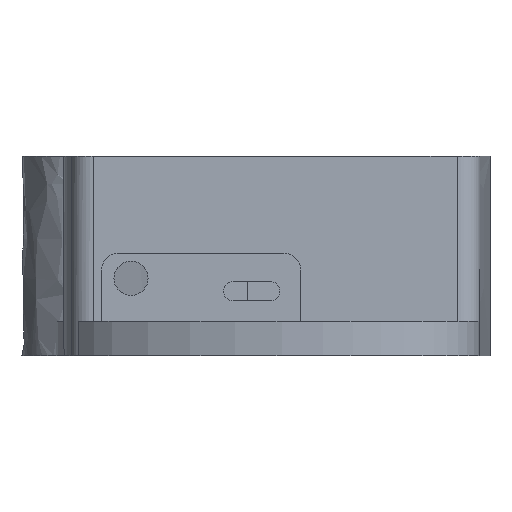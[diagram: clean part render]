
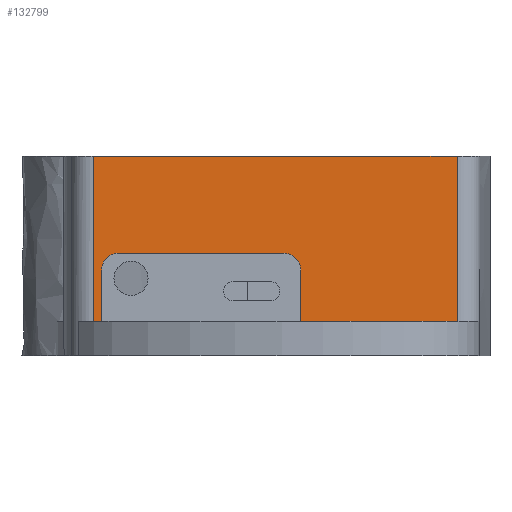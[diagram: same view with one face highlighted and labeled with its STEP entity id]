
A CAD part, front view. The second image highlights one B-rep face of the part: STEP entity #132799.
In plain terms, the highlighted planar face has unit normal (0, -1, 0).
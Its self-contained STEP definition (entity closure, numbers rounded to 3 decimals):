
#1642 = VERTEX_POINT ( 'NONE', #85141 ) ;
#2702 = CARTESIAN_POINT ( 'NONE',  ( -32.026, -46.964, 35. ) ) ;
#7456 = DIRECTION ( 'NONE',  ( 0., 0., 1. ) ) ;
#7679 = PLANE ( 'NONE',  #141575 ) ;
#9794 = ORIENTED_EDGE ( 'NONE', *, *, #21902, .T. ) ;
#11731 = VECTOR ( 'NONE', #16621, 1000. ) ;
#12630 = EDGE_CURVE ( 'NONE', #136118, #119531, #80817, .T. ) ;
#15095 = VERTEX_POINT ( 'NONE', #58963 ) ;
#16621 = DIRECTION ( 'NONE',  ( 1., 0., 0. ) ) ;
#20872 = ORIENTED_EDGE ( 'NONE', *, *, #85864, .T. ) ;
#20961 = VECTOR ( 'NONE', #112625, 1000. ) ;
#21902 = EDGE_CURVE ( 'NONE', #15095, #125558, #37615, .T. ) ;
#24611 = LINE ( 'NONE', #111409, #104779 ) ;
#27295 = EDGE_CURVE ( 'NONE', #104570, #125558, #131603, .T. ) ;
#28160 = VECTOR ( 'NONE', #57075, 1000. ) ;
#30438 = DIRECTION ( 'NONE',  ( 0., 0., -1. ) ) ;
#32557 = CARTESIAN_POINT ( 'NONE',  ( -30.597, -46.964, 8. ) ) ;
#32934 = EDGE_CURVE ( 'NONE', #123178, #104570, #116383, .T. ) ;
#33566 = DIRECTION ( 'NONE',  ( 1., 0., 0. ) ) ;
#34666 = CARTESIAN_POINT ( 'NONE',  ( 4.403, -46.964, 15. ) ) ;
#34723 = VECTOR ( 'NONE', #33566, 1000. ) ;
#37615 = LINE ( 'NONE', #104853, #11731 ) ;
#40229 = FACE_OUTER_BOUND ( 'NONE', #80292, .T. ) ;
#45363 = LINE ( 'NONE', #2702, #20961 ) ;
#47100 = AXIS2_PLACEMENT_3D ( 'NONE', #105106, #48674, #7456 ) ;
#48674 = DIRECTION ( 'NONE',  ( 0., -1., 0. ) ) ;
#49110 = ORIENTED_EDGE ( 'NONE', *, *, #99679, .F. ) ;
#52830 = VECTOR ( 'NONE', #122853, 1000. ) ;
#53379 = AXIS2_PLACEMENT_3D ( 'NONE', #139688, #83326, #95604 ) ;
#56025 = ORIENTED_EDGE ( 'NONE', *, *, #87690, .F. ) ;
#57075 = DIRECTION ( 'NONE',  ( 0., 0., 1. ) ) ;
#58963 = CARTESIAN_POINT ( 'NONE',  ( -32.026, -46.964, 6. ) ) ;
#61245 = ORIENTED_EDGE ( 'NONE', *, *, #69679, .T. ) ;
#61586 = CARTESIAN_POINT ( 'NONE',  ( -27.597, -46.964, 18. ) ) ;
#62216 = CARTESIAN_POINT ( 'NONE',  ( -30.597, -46.964, 6. ) ) ;
#67714 = CARTESIAN_POINT ( 'NONE',  ( -30.597, -46.964, 15. ) ) ;
#69302 = LINE ( 'NONE', #91051, #52830 ) ;
#69679 = EDGE_CURVE ( 'NONE', #85043, #136118, #96027, .T. ) ;
#74206 = DIRECTION ( 'NONE',  ( 0., 1., 0. ) ) ;
#80292 = EDGE_LOOP ( 'NONE', ( #20872, #9794, #92993, #89396, #49110, #56025, #132677, #61245, #103483, #84392 ) ) ;
#80817 = LINE ( 'NONE', #135063, #104118 ) ;
#83326 = DIRECTION ( 'NONE',  ( 0., -1., 0. ) ) ;
#84392 = ORIENTED_EDGE ( 'NONE', *, *, #106760, .F. ) ;
#85043 = VERTEX_POINT ( 'NONE', #93056 ) ;
#85141 = CARTESIAN_POINT ( 'NONE',  ( 4.403, -46.964, 15. ) ) ;
#85864 = EDGE_CURVE ( 'NONE', #87579, #15095, #45363, .T. ) ;
#87579 = VERTEX_POINT ( 'NONE', #123843 ) ;
#87690 = EDGE_CURVE ( 'NONE', #1642, #116815, #92628, .T. ) ;
#89396 = ORIENTED_EDGE ( 'NONE', *, *, #32934, .F. ) ;
#91051 = CARTESIAN_POINT ( 'NONE',  ( -35.097, -46.964, 35. ) ) ;
#92628 = CIRCLE ( 'NONE', #53379, 3. ) ;
#92993 = ORIENTED_EDGE ( 'NONE', *, *, #27295, .F. ) ;
#93056 = CARTESIAN_POINT ( 'NONE',  ( 4.403, -46.964, 6. ) ) ;
#95604 = DIRECTION ( 'NONE',  ( 0., 0., -1. ) ) ;
#95935 = DIRECTION ( 'NONE',  ( 0., 0., 1. ) ) ;
#96027 = LINE ( 'NONE', #110220, #34723 ) ;
#98558 = CARTESIAN_POINT ( 'NONE',  ( 1.403, -46.964, 18. ) ) ;
#99679 = EDGE_CURVE ( 'NONE', #116815, #123178, #24611, .T. ) ;
#101921 = LINE ( 'NONE', #34666, #28160 ) ;
#103483 = ORIENTED_EDGE ( 'NONE', *, *, #12630, .T. ) ;
#104118 = VECTOR ( 'NONE', #112648, 1000. ) ;
#104570 = VERTEX_POINT ( 'NONE', #67714 ) ;
#104779 = VECTOR ( 'NONE', #122227, 1000. ) ;
#104853 = CARTESIAN_POINT ( 'NONE',  ( -35.097, -46.964, 6. ) ) ;
#105106 = CARTESIAN_POINT ( 'NONE',  ( -27.597, -46.964, 15. ) ) ;
#106519 = CARTESIAN_POINT ( 'NONE',  ( 31.871, -46.964, 6. ) ) ;
#106760 = EDGE_CURVE ( 'NONE', #87579, #119531, #69302, .T. ) ;
#110220 = CARTESIAN_POINT ( 'NONE',  ( -35.097, -46.964, 6. ) ) ;
#111409 = CARTESIAN_POINT ( 'NONE',  ( -27.597, -46.964, 18. ) ) ;
#112625 = DIRECTION ( 'NONE',  ( 0., 0., -1. ) ) ;
#112648 = DIRECTION ( 'NONE',  ( 0., 0., 1. ) ) ;
#116383 = CIRCLE ( 'NONE', #47100, 3. ) ;
#116695 = CARTESIAN_POINT ( 'NONE',  ( 31.871, -46.964, 35. ) ) ;
#116815 = VERTEX_POINT ( 'NONE', #98558 ) ;
#117957 = VECTOR ( 'NONE', #30438, 1000. ) ;
#119531 = VERTEX_POINT ( 'NONE', #116695 ) ;
#122227 = DIRECTION ( 'NONE',  ( -1., 0., 0. ) ) ;
#122853 = DIRECTION ( 'NONE',  ( 1., 0., 0. ) ) ;
#123178 = VERTEX_POINT ( 'NONE', #61586 ) ;
#123843 = CARTESIAN_POINT ( 'NONE',  ( -32.026, -46.964, 35. ) ) ;
#125558 = VERTEX_POINT ( 'NONE', #62216 ) ;
#126304 = CARTESIAN_POINT ( 'NONE',  ( -35.097, -46.964, 35. ) ) ;
#126410 = EDGE_CURVE ( 'NONE', #85043, #1642, #101921, .T. ) ;
#131603 = LINE ( 'NONE', #32557, #117957 ) ;
#132677 = ORIENTED_EDGE ( 'NONE', *, *, #126410, .F. ) ;
#132799 = ADVANCED_FACE ( 'NONE', ( #40229 ), #7679, .F. ) ;
#135063 = CARTESIAN_POINT ( 'NONE',  ( 31.871, -46.964, 35. ) ) ;
#136118 = VERTEX_POINT ( 'NONE', #106519 ) ;
#139688 = CARTESIAN_POINT ( 'NONE',  ( 1.403, -46.964, 15. ) ) ;
#141575 = AXIS2_PLACEMENT_3D ( 'NONE', #126304, #74206, #95935 ) ;
